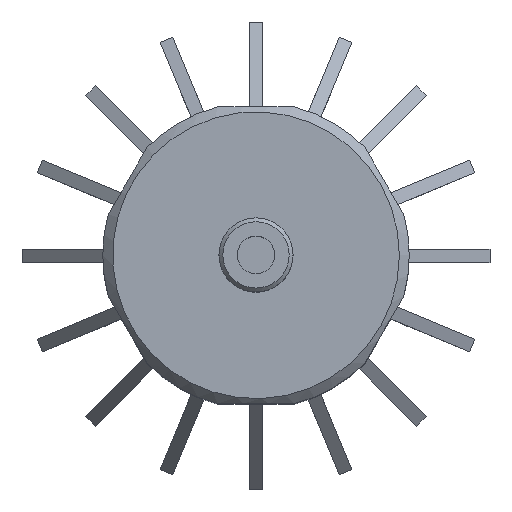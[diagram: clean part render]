
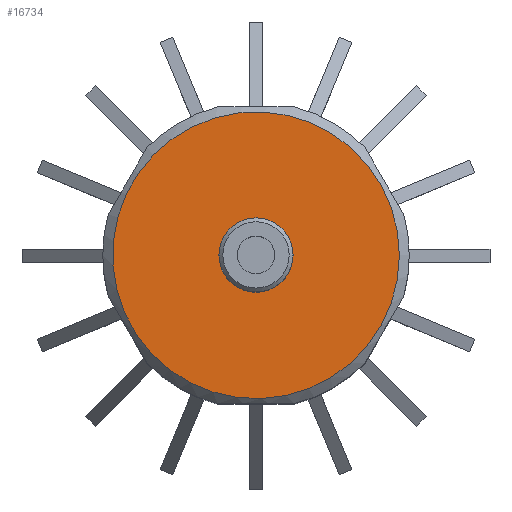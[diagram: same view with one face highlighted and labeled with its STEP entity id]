
A CAD part, top view. The second image highlights one B-rep face of the part: STEP entity #16734.
In plain terms, the highlighted planar face has unit normal (0, 0, 1).
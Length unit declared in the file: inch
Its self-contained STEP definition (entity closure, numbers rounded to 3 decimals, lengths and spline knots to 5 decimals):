
#16703=CARTESIAN_POINT('',(27.81218,1.62926,-0.3266));
#16704=VERTEX_POINT('',#16703);
#16705=CARTESIAN_POINT('',(27.08718,1.62926,-0.3266));
#16706=DIRECTION('',(0.0,0.0,-1.0));
#16707=DIRECTION('',(-1.0,0.0,0.0));
#16708=AXIS2_PLACEMENT_3D('',#16705,#16706,#16707);
#16709=CIRCLE('',#16708,0.725);
#16710=EDGE_CURVE('',#16704,#16704,#16709,.T.);
#16715=CARTESIAN_POINT('',(27.08718,1.62926,-0.3266));
#16716=DIRECTION('',(0.0,0.0,-1.0));
#16717=DIRECTION('',(1.0,0.0,0.0));
#16718=AXIS2_PLACEMENT_3D('',#16715,#16716,#16717);
#16719=PLANE('',#16718);
#16720=ORIENTED_EDGE('',*,*,#16710,.F.);
#16721=EDGE_LOOP('',(#16720));
#16722=FACE_OUTER_BOUND('',#16721,.T.);
#16723=CARTESIAN_POINT('',(27.17668,1.62926,-0.3266));
#16724=VERTEX_POINT('',#16723);
#16725=CARTESIAN_POINT('',(27.08718,1.62926,-0.3266));
#16726=DIRECTION('',(0.0,0.0,-1.0));
#16727=DIRECTION('',(1.0,0.0,0.0));
#16728=AXIS2_PLACEMENT_3D('',#16725,#16726,#16727);
#16729=CIRCLE('',#16728,0.0895);
#16730=EDGE_CURVE('',#16724,#16724,#16729,.T.);
#16731=ORIENTED_EDGE('',*,*,#16730,.T.);
#16732=EDGE_LOOP('',(#16731));
#16733=FACE_BOUND('',#16732,.T.);
#16734=ADVANCED_FACE('',(#16722,#16733),#16719,.F.);
